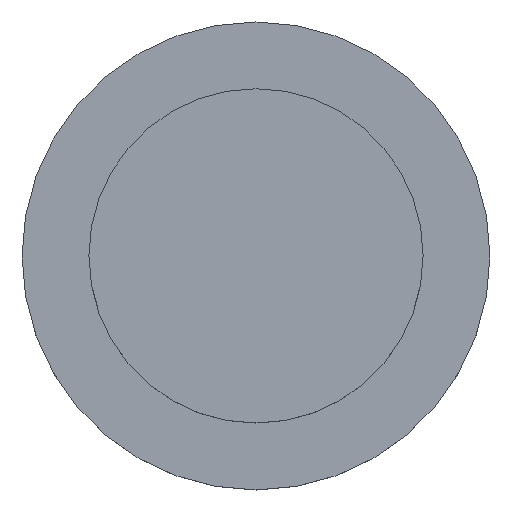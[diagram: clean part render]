
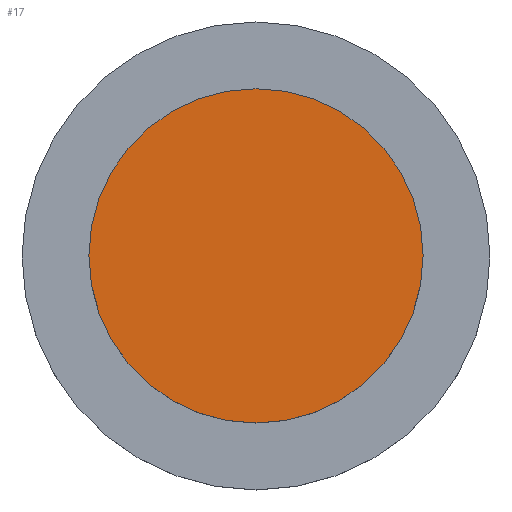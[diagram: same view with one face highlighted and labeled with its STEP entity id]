
A CAD part, top view. The second image highlights one B-rep face of the part: STEP entity #17.
In plain terms, the highlighted planar face has unit normal (0, 0, 1).
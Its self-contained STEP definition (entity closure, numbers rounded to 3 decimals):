
#17 = ADVANCED_FACE('',(#18),#31,.T.);
#18 = FACE_BOUND('',#19,.T.);
#19 = EDGE_LOOP('',(#20));
#20 = ORIENTED_EDGE('',*,*,#21,.T.);
#21 = EDGE_CURVE('',#22,#22,#24,.T.);
#22 = VERTEX_POINT('',#23);
#23 = CARTESIAN_POINT('',(9.75,0.,3.2));
#24 = SURFACE_CURVE('',#25,(#30,#42),.PCURVE_S1.);
#25 = CIRCLE('',#26,9.75);
#26 = AXIS2_PLACEMENT_3D('',#27,#28,#29);
#27 = CARTESIAN_POINT('',(0.,0.,3.2));
#28 = DIRECTION('',(0.,0.,1.));
#29 = DIRECTION('',(1.,0.,0.));
#30 = PCURVE('',#31,#36);
#31 = PLANE('',#32);
#32 = AXIS2_PLACEMENT_3D('',#33,#34,#35);
#33 = CARTESIAN_POINT('',(0.,0.,3.2));
#34 = DIRECTION('',(0.,0.,1.));
#35 = DIRECTION('',(1.,0.,0.));
#36 = DEFINITIONAL_REPRESENTATION('',(#37),#41);
#37 = CIRCLE('',#38,9.75);
#38 = AXIS2_PLACEMENT_2D('',#39,#40);
#39 = CARTESIAN_POINT('',(0.,0.));
#40 = DIRECTION('',(1.,0.));
#41 = ( GEOMETRIC_REPRESENTATION_CONTEXT(2) 
PARAMETRIC_REPRESENTATION_CONTEXT() REPRESENTATION_CONTEXT('2D SPACE',''
  ) );
#42 = PCURVE('',#43,#48);
#43 = CYLINDRICAL_SURFACE('',#44,9.75);
#44 = AXIS2_PLACEMENT_3D('',#45,#46,#47);
#45 = CARTESIAN_POINT('',(0.,0.,0.));
#46 = DIRECTION('',(-0.,-0.,-1.));
#47 = DIRECTION('',(1.,0.,0.));
#48 = DEFINITIONAL_REPRESENTATION('',(#49),#53);
#49 = LINE('',#50,#51);
#50 = CARTESIAN_POINT('',(-0.,-3.2));
#51 = VECTOR('',#52,1.);
#52 = DIRECTION('',(-1.,0.));
#53 = ( GEOMETRIC_REPRESENTATION_CONTEXT(2) 
PARAMETRIC_REPRESENTATION_CONTEXT() REPRESENTATION_CONTEXT('2D SPACE',''
  ) );
